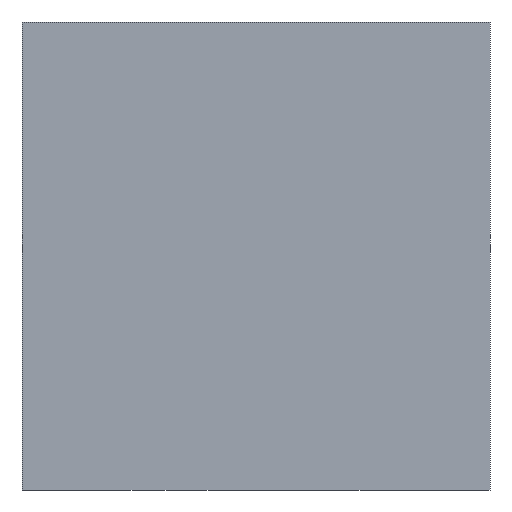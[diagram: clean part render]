
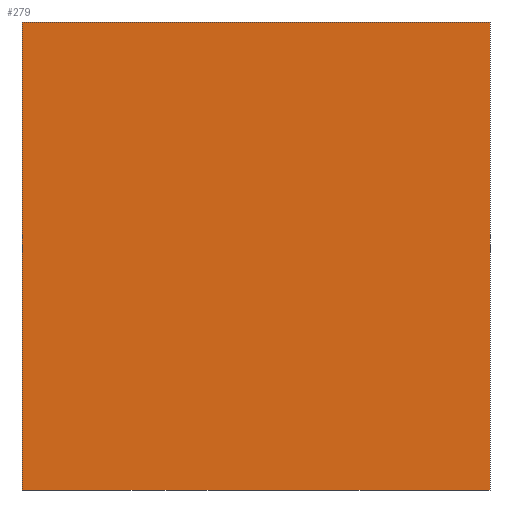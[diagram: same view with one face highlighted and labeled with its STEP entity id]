
A CAD part, left-side view. The second image highlights one B-rep face of the part: STEP entity #279.
In plain terms, the highlighted planar face has unit normal (-1, 0, 0).
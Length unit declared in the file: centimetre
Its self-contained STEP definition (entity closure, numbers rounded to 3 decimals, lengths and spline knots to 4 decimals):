
#5 = DIRECTION ( 'NONE',  ( 0., -1., 0. ) ) ;
#14 = CARTESIAN_POINT ( 'NONE',  ( 0., 0., 1000. ) ) ;
#20 = VECTOR ( 'NONE', #5, 100. ) ;
#32 = VERTEX_POINT ( 'NONE', #115 ) ;
#34 = VECTOR ( 'NONE', #358, 100. ) ;
#36 = FACE_OUTER_BOUND ( 'NONE', #142, .T. ) ;
#38 = VERTEX_POINT ( 'NONE', #203 ) ;
#40 = LINE ( 'NONE', #185, #34 ) ;
#45 = EDGE_CURVE ( 'NONE', #96, #38, #313, .T. ) ;
#57 = DIRECTION ( 'NONE',  ( 0., 0., -1. ) ) ;
#67 = AXIS2_PLACEMENT_3D ( 'NONE', #148, #118, #267 ) ;
#74 = CARTESIAN_POINT ( 'NONE',  ( 0., 1000., 1000. ) ) ;
#94 = ORIENTED_EDGE ( 'NONE', *, *, #45, .T. ) ;
#96 = VERTEX_POINT ( 'NONE', #241 ) ;
#115 = CARTESIAN_POINT ( 'NONE',  ( 0., 0., 0. ) ) ;
#118 = DIRECTION ( 'NONE',  ( 1., 0., 0. ) ) ;
#142 = EDGE_LOOP ( 'NONE', ( #346, #188, #371, #94 ) ) ;
#148 = CARTESIAN_POINT ( 'NONE',  ( 0., 1000., 1000. ) ) ;
#152 = LINE ( 'NONE', #74, #20 ) ;
#156 = PLANE ( 'NONE',  #67 ) ;
#157 = EDGE_CURVE ( 'NONE', #38, #32, #278, .T. ) ;
#158 = VERTEX_POINT ( 'NONE', #14 ) ;
#168 = EDGE_CURVE ( 'NONE', #158, #32, #40, .T. ) ;
#177 = CARTESIAN_POINT ( 'NONE',  ( 0., 1000., 1000. ) ) ;
#185 = CARTESIAN_POINT ( 'NONE',  ( 0., 0., 1000. ) ) ;
#187 = DIRECTION ( 'NONE',  ( 0., -1., 0. ) ) ;
#188 = ORIENTED_EDGE ( 'NONE', *, *, #168, .F. ) ;
#203 = CARTESIAN_POINT ( 'NONE',  ( 0., 1000., 0. ) ) ;
#241 = CARTESIAN_POINT ( 'NONE',  ( 0., 1000., 1000. ) ) ;
#258 = EDGE_CURVE ( 'NONE', #96, #158, #152, .T. ) ;
#267 = DIRECTION ( 'NONE',  ( 0., 0., -1. ) ) ;
#278 = LINE ( 'NONE', #299, #368 ) ;
#279 = ADVANCED_FACE ( 'NONE', ( #36 ), #156, .F. ) ;
#299 = CARTESIAN_POINT ( 'NONE',  ( 0., 1000., 0. ) ) ;
#313 = LINE ( 'NONE', #177, #315 ) ;
#315 = VECTOR ( 'NONE', #57, 100. ) ;
#346 = ORIENTED_EDGE ( 'NONE', *, *, #157, .T. ) ;
#358 = DIRECTION ( 'NONE',  ( 0., 0., -1. ) ) ;
#368 = VECTOR ( 'NONE', #187, 100. ) ;
#371 = ORIENTED_EDGE ( 'NONE', *, *, #258, .F. ) ;
